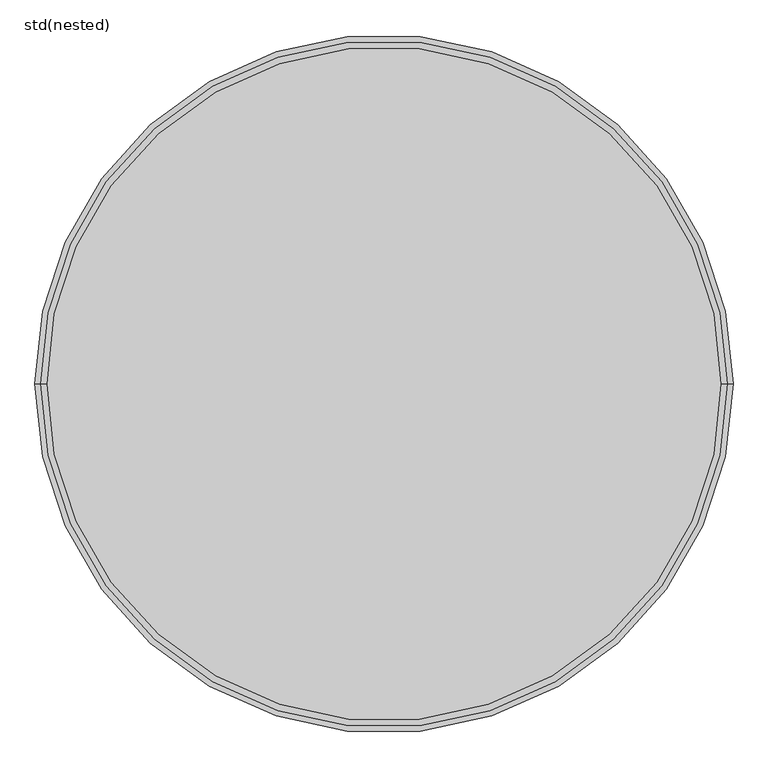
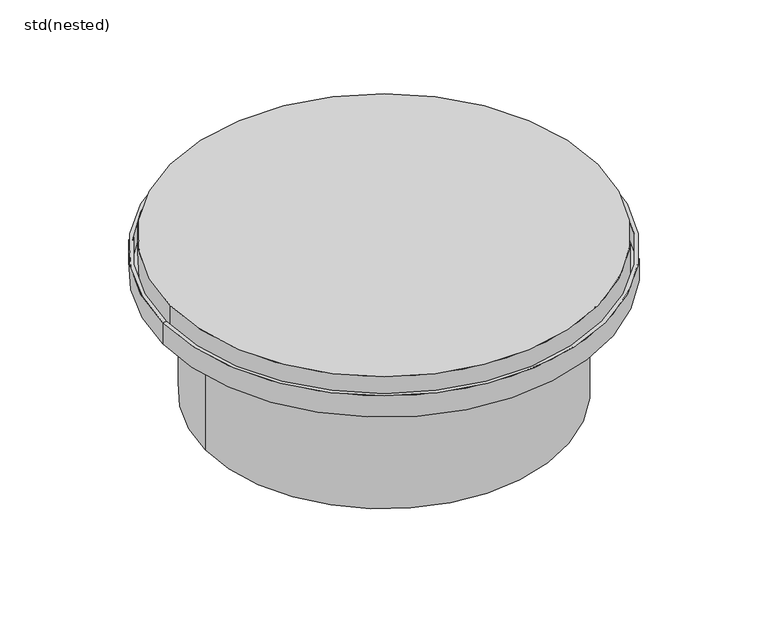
"""IFC4 building model written with IfcOpenShell, lengths in millimetres: unitary equipment geometry, ZZZ_do not use_ME_ST_WPB_top sections_plastic_ACO : std(nested)."""

from ifc_helpers import new_model, si_unit, point, frame, origin, origin_2d, place, context, project, spatial, polyline, circle_curve, trimmed, segment, composite_curve, outline, extrude, source, transform, mapped, element, save
from ifc_brep_helpers import plane_surface, cylinder_surface, revolved_surface, advanced_brep


def std_nested_67850f29(model_context):
    return source(origin(), model_context, "Body", "SolidModel", [
        advanced_brep(
        [(-510.0, 0.0, -35.0), (510.0, 0.0, -35.0), (518.0, 0.0, -35.0), (-518.0, 0.0, -35.0), (-510.0, 0.0, -80.0), (510.0, 0.0, -80.0), (-410.0, 0.0, -80.0), (410.0, 0.0, -80.0), (-410.0, 0.0, -385.0), (410.0, 0.0, -385.0), (-418.0, 0.0, -385.0), (418.0, 0.0, -385.0), (-418.0, 0.0, -88.0), (418.0, 0.0, -88.0), (-518.0, 0.0, -88.0), (518.0, 0.0, -88.0)],
        [
            (0, 1, circle_curve(frame((0.0, 0.0, -35.0), z_axis=(0.0, 0.0, -1.0), x_axis=(1.0, 0.0, 0.0)), 510.0)),
            (1, 2),
            (2, 3, circle_curve(frame((0.0, 0.0, -35.0), z_axis=(0.0, 0.0, 1.0), x_axis=(1.0, 0.0, 0.0)), 518.0)),
            (3, 0),
            (1, 0, circle_curve(frame((0.0, 0.0, -35.0), z_axis=(0.0, 0.0, -1.0), x_axis=(1.0, 0.0, 0.0)), 510.0)),
            (3, 2, circle_curve(frame((0.0, 0.0, -35.0), z_axis=(0.0, 0.0, 1.0), x_axis=(1.0, 0.0, 0.0)), 518.0)),
            (4, 5, circle_curve(frame((0.0, 0.0, -80.0), z_axis=(0.0, 0.0, -1.0), x_axis=(1.0, 0.0, 0.0)), 510.0)),
            (5, 1),
            (0, 4),
            (5, 4, circle_curve(frame((0.0, 0.0, -80.0), z_axis=(0.0, 0.0, -1.0), x_axis=(1.0, 0.0, 0.0)), 510.0)),
            (6, 7, circle_curve(frame((0.0, 0.0, -80.0), z_axis=(0.0, 0.0, -1.0), x_axis=(1.0, 0.0, 0.0)), 410.0)),
            (7, 5),
            (4, 6),
            (7, 6, circle_curve(frame((0.0, 0.0, -80.0), z_axis=(0.0, 0.0, -1.0), x_axis=(1.0, 0.0, 0.0)), 410.0)),
            (8, 9, circle_curve(frame((0.0, 0.0, -385.0), z_axis=(0.0, 0.0, -1.0), x_axis=(1.0, 0.0, 0.0)), 410.0)),
            (9, 7),
            (6, 8),
            (9, 8, circle_curve(frame((0.0, 0.0, -385.0), z_axis=(0.0, 0.0, -1.0), x_axis=(1.0, 0.0, 0.0)), 410.0)),
            (10, 11, circle_curve(frame((0.0, 0.0, -385.0), z_axis=(0.0, 0.0, -1.0), x_axis=(1.0, 0.0, 0.0)), 418.0)),
            (11, 9),
            (8, 10),
            (11, 10, circle_curve(frame((0.0, 0.0, -385.0), z_axis=(0.0, 0.0, -1.0), x_axis=(1.0, 0.0, 0.0)), 418.0)),
            (12, 13, circle_curve(frame((0.0, 0.0, -88.0), z_axis=(0.0, 0.0, -1.0), x_axis=(1.0, 0.0, 0.0)), 418.0)),
            (13, 11),
            (10, 12),
            (13, 12, circle_curve(frame((0.0, 0.0, -88.0), z_axis=(0.0, 0.0, -1.0), x_axis=(1.0, 0.0, 0.0)), 418.0)),
            (14, 15, circle_curve(frame((0.0, 0.0, -88.0), z_axis=(0.0, 0.0, -1.0), x_axis=(1.0, 0.0, 0.0)), 518.0)),
            (15, 13),
            (12, 14),
            (15, 14, circle_curve(frame((0.0, 0.0, -88.0), z_axis=(0.0, 0.0, -1.0), x_axis=(1.0, 0.0, 0.0)), 518.0)),
            (2, 15),
            (14, 3),
        ],
        [
            plane_surface(frame((0.0, 0.0, -35.0), z_axis=(0.0, 0.0, 1.0), x_axis=(1.0, 0.0, 0.0))),
            revolved_surface(polyline([(510.0, 0.0, -35.0), (510.0, 0.0, -80.0)]), (0.0, 0.0, 240.0), (0.0, 0.0, 1.0)),
            plane_surface(frame((0.0, 0.0, -80.0), z_axis=(0.0, 0.0, 1.0), x_axis=(1.0, 0.0, 0.0))),
            revolved_surface(polyline([(410.0, 0.0, -80.0), (410.0, 0.0, -385.0)]), (0.0, 0.0, 240.0), (0.0, 0.0, 1.0)),
            plane_surface(frame((0.0, 0.0, -385.0), z_axis=(0.0, 0.0, -1.0), x_axis=(1.0, 0.0, 0.0))),
            cylinder_surface(frame((0.0, 0.0, 240.0), z_axis=(0.0, 0.0, 1.0), x_axis=(1.0, 0.0, 0.0)), 418.0),
            plane_surface(frame((0.0, 0.0, -88.0), z_axis=(0.0, 0.0, -1.0), x_axis=(1.0, 0.0, 0.0))),
            cylinder_surface(frame((0.0, 0.0, 240.0), z_axis=(0.0, 0.0, 1.0), x_axis=(1.0, 0.0, 0.0)), 518.0),
        ],
        [
            (0, [[1, 2, 3, 4]]),
            (0, [[5, -4, 6, -2]]),
            (1, [[7, 8, -1, 9]]),
            (1, [[10, -9, -5, -8]]),
            (2, [[11, 12, -7, 13]]),
            (2, [[14, -13, -10, -12]]),
            (3, [[15, 16, -11, 17]]),
            (3, [[18, -17, -14, -16]]),
            (4, [[19, 20, -15, 21]]),
            (4, [[22, -21, -18, -20]]),
            (5, [[23, 24, -19, 25]]),
            (5, [[26, -25, -22, -24]]),
            (6, [[27, 28, -23, 29]]),
            (6, [[30, -29, -26, -28]]),
            (7, [[-3, 31, -27, 32]]),
            (7, [[-6, -32, -30, -31]]),
        ],
    ),
        extrude(outline(composite_curve([segment(trimmed(circle_curve(origin_2d(), 500.0), [point((-500.0, 0.0))], [point((500.0, 0.0))], False, "CARTESIAN"), True, "CONTINUOUS"), segment(trimmed(circle_curve(origin_2d(), 500.0), [point((500.0, 0.0))], [point((-500.0, 0.0))], False, "CARTESIAN"), True, "CONTINUOUS")], self_intersect=False)), frame((0.0, 0.0, -80.0), z_axis=(0.0, 0.0, 1.0), x_axis=(1.0, 0.0, 0.0)), (0.0, 0.0, 1.0), 80.0),
    ])


if __name__ == "__main__":
    model = new_model("IFC4")
    model_context = context("Model", 3, world=origin())
    ifc_project = project(units=[si_unit("LENGTHUNIT", "METRE", prefix="MILLI")], contexts=[model_context])
    site = spatial("IfcSite", under=ifc_project)
    building = spatial("IfcBuilding", under=site)
    placement = place(None, origin())
    std_nested_shape = std_nested_67850f29(model_context)
    element("IfcUnitaryEquipment", 1, ObjectType="ZZZ_do not use_ME_ST_WPB_top sections_plastic_ACO : std(nested)", at=placement, inside=building, context=model_context, shape_type="MappedRepresentation", body=[
        mapped(std_nested_shape, transform((0.0, 0.0, 0.0), x_axis=(1.0, 0.0, 0.0), y_axis=(0.0, 1.0, 0.0), z_axis=(0.0, 0.0, 1.0))),
    ])
    save(model, "model.ifc")
